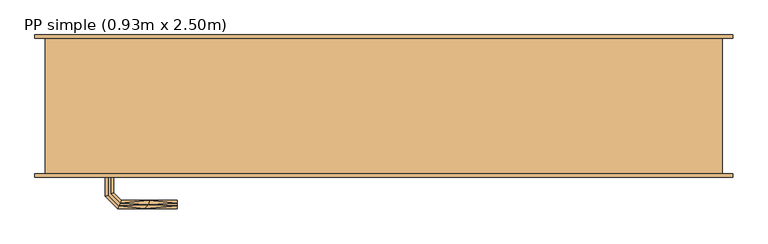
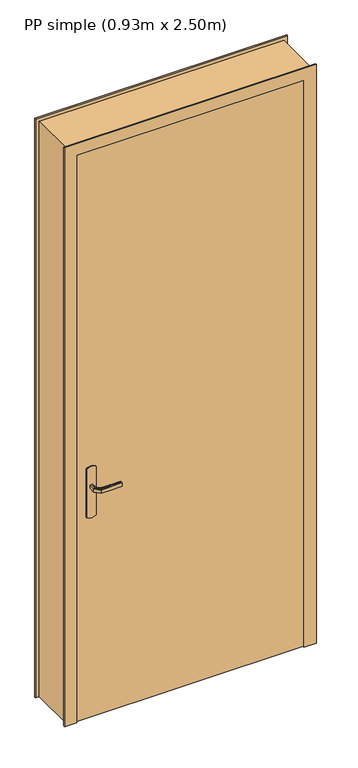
"""IFC4 building model written with IfcOpenShell, lengths in millimetres: door geometry, PP simple (0.93m x 2.50m)."""

from ifc_helpers import new_model, si_unit, frame, origin, origin_with_axes, place, context, project, spatial, polyline, outline, extrude, faceted_brep, source, transform, mapped, element, save


def pp_simple_0_93m_x_2_50m_93090895(model_context):
    return source(origin(), model_context, "Body", "SolidModel", [
        extrude(outline(polyline([(35.0, 40.0), (965.0, 40.0), (965.0, 0.0), (35.0, 0.0), (35.0, 40.0)])), origin_with_axes(), (0.0, 0.0, 1.0), 2450.0),
        extrude(outline(polyline([(866.0039831, 105.3527618), (870.0, 115.0), (1080.0, 115.0), (1083.9960169, 105.3527618), (1085.3589838, 95.0), (1083.9960169, 84.6472382), (1080.0, 75.0), (870.0, 75.0), (866.0039831, 84.6472382), (864.6410162, 95.0), (866.0039831, 105.3527618)])), frame((0.0, -5.0, 0.0), z_axis=(0.0, 1.0, 0.0), x_axis=(0.0, 0.0, 1.0)), (0.0, 0.0, 1.0), 5.0),
        faceted_brep([(92.9747013, -5.0, 1007.7804408), (97.0252987, -5.0, 1007.7804408), (101.0, -5.0, 1007.0), (101.0, -5.0, 993.0), (97.0252987, -5.0, 992.2195592), (92.9747013, -5.0, 992.2195592), (89.0, -5.0, 993.0), (89.0, -5.0, 1007.0), (89.0, -32.6509507, 1007.0), (92.9747013, -31.0045755, 1007.7804408), (109.0235852, -47.0534593, 1007.7804408), (110.7013975, -43.002862, 1007.7804408), (97.0252987, -29.3267632, 1007.7804408), (101.0, -27.680388, 1007.0), (101.0, -27.680388, 993.0), (97.0252987, -29.3267632, 992.2195592), (110.7013975, -43.002862, 992.2195592), (109.0235852, -47.0534593, 992.2195592), (92.9747013, -31.0045755, 992.2195592), (89.0, -32.6509507, 993.0), (107.37721, -51.0281607, 1007.0), (112.3477727, -39.0281607, 1007.0), (112.3477727, -39.0281607, 993.0), (107.37721, -51.0281607, 993.0), (195.0186406, -51.0281607, 993.0), (195.0186406, -47.0534593, 992.2195592), (195.0186406, -43.002862, 992.2195592), (195.0186406, -39.0281607, 993.0), (195.0186406, -39.0281607, 1007.0), (195.0186406, -43.002862, 1007.7804408), (195.0186406, -47.0534593, 1007.7804408), (195.0186406, -51.0281607, 1007.0), (147.3076972, -51.0281607, 1007.0), (152.8600191, -45.0281607, 1007.8786868), (153.6832067, -39.0281607, 1007.0), (153.6832067, -39.0281607, 993.0), (152.8600189, -45.0281608, 992.1213132), (147.3077002, -51.0281607, 993.0)], [[[0, 1, 2, 3, 4, 5, 6, 7]], [[8, 9, 0, 7]], [[9, 10, 11, 12, 1, 0]], [[12, 13, 2, 1]], [[3, 2, 13, 14]], [[14, 15, 4, 3]], [[15, 16, 17, 18, 5, 4]], [[18, 19, 6, 5]], [[7, 6, 19, 8]], [[20, 10, 9, 8]], [[11, 21, 13, 12]], [[14, 13, 21, 22]], [[22, 16, 15, 14]], [[17, 23, 19, 18]], [[8, 19, 23, 20]], [[24, 25, 26, 27, 28, 29, 30, 31]], [[32, 30, 33]], [[31, 30, 32]], [[10, 20, 32]], [[33, 34, 11]], [[21, 11, 34]], [[34, 29, 28]], [[30, 29, 33]], [[29, 34, 33]], [[10, 32, 33]], [[10, 33, 11]], [[22, 21, 34, 28, 27, 35]], [[35, 26, 36]], [[37, 36, 25]], [[22, 35, 16]], [[35, 27, 26]], [[24, 37, 25]], [[23, 17, 37]], [[37, 17, 36]], [[17, 16, 36]], [[16, 35, 36]], [[25, 36, 26]], [[20, 23, 37, 24, 31, 32]]]),
        faceted_brep([(92.9747013, 45.0, 1007.7804408), (89.0, 45.0, 1007.0), (89.0, 45.0, 993.0), (92.9747013, 45.0, 992.2195592), (97.0252987, 45.0, 992.2195592), (101.0, 45.0, 993.0), (101.0, 45.0, 1007.0), (97.0252987, 45.0, 1007.7804408), (101.0, 67.4852045, 993.0), (101.0, 67.4852045, 1007.0), (97.0252987, 69.1315797, 1007.7804408), (110.8389062, 82.9451872, 1007.7804408), (109.1610938, 86.9957845, 1007.7804408), (92.9747013, 70.8093921, 1007.7804408), (89.0, 72.4557673, 1007.0), (89.0, 72.4557673, 993.0), (92.9747013, 70.8093921, 992.2195592), (109.1610938, 86.9957845, 992.2195592), (110.8389062, 82.9451872, 992.2195592), (97.0252987, 69.1315797, 992.2195592), (112.4852814, 78.9704859, 993.0), (112.4852814, 78.9704859, 1007.0), (107.5147186, 90.9704859, 1007.0), (107.5147186, 90.9704859, 993.0), (195.0457837, 78.9704859, 993.0), (195.0457837, 82.9451872, 992.2195592), (195.0457837, 86.9957845, 992.2195592), (195.0457837, 90.9704859, 993.0), (195.0457837, 90.9704859, 1007.0), (195.0457837, 86.9957845, 1007.7804408), (195.0457837, 82.9451872, 1007.7804408), (195.0457837, 78.9704859, 1007.0), (153.7655206, 78.9704859, 993.0), (153.7655325, 78.9704859, 1007.0), (152.9423449, 84.9704859, 1007.8786868), (147.4452058, 90.9704859, 1007.0), (147.4452043, 90.9704859, 993.0), (152.9423451, 84.9704858, 992.1213132)], [[[0, 1, 2, 3, 4, 5, 6, 7]], [[6, 5, 8, 9]], [[9, 10, 7, 6]], [[10, 11, 12, 13, 0, 7]], [[13, 14, 1, 0]], [[2, 1, 14, 15]], [[15, 16, 3, 2]], [[16, 17, 18, 19, 4, 3]], [[19, 8, 5, 4]], [[9, 8, 20, 21]], [[21, 11, 10, 9]], [[12, 22, 14, 13]], [[15, 14, 22, 23]], [[23, 17, 16, 15]], [[18, 20, 8, 19]], [[24, 25, 26, 27, 28, 29, 30, 31]], [[21, 20, 32, 24, 31, 33]], [[33, 30, 34]], [[35, 34, 29]], [[21, 33, 11]], [[33, 31, 30]], [[28, 35, 29]], [[22, 12, 35]], [[35, 12, 34]], [[12, 11, 34]], [[11, 33, 34]], [[29, 34, 30]], [[22, 35, 28, 27, 36, 23]], [[36, 26, 37]], [[27, 26, 36]], [[17, 23, 36]], [[37, 32, 18]], [[20, 18, 32]], [[32, 25, 24]], [[26, 25, 37]], [[25, 32, 37]], [[17, 36, 37]], [[17, 37, 18]]]),
        faceted_brep([(0.0, 200.0, 0.0), (-15.0, 200.0, 0.0), (-15.0, 205.0, 0.0), (50.0, 205.0, 0.0), (50.0, 40.0, 0.0), (35.0, 40.0, 0.0), (35.0, -5.0, 0.0), (-15.0, -5.0, 0.0), (-15.0, 0.0, 0.0), (0.0, 0.0, 0.0), (0.0, 0.0, 2485.0), (0.0, 200.0, 2485.0), (1000.0, 200.0, 2485.0), (1000.0, 200.0, 0.0), (1015.0, 200.0, 0.0), (1015.0, 200.0, 2500.0), (-15.0, 200.0, 2500.0), (50.0, 205.0, 2435.0), (50.0, 40.0, 2435.0), (950.0, 40.0, 2435.0), (950.0, 40.0, 0.0), (965.0, 40.0, 0.0), (965.0, 40.0, 2450.0), (35.0, 40.0, 2450.0), (1000.0, 0.0, 2485.0), (1000.0, 0.0, 0.0), (1015.0, 0.0, 0.0), (1015.0, -5.0, 0.0), (965.0, -5.0, 0.0), (950.0, 205.0, 0.0), (1015.0, 205.0, 0.0), (950.0, 205.0, 2435.0), (35.0, -5.0, 2450.0), (965.0, -5.0, 2450.0), (1015.0, -5.0, 2500.0), (-15.0, -5.0, 2500.0), (-15.0, 0.0, 2500.0), (1015.0, 0.0, 2500.0), (-15.0, 205.0, 2500.0), (1015.0, 205.0, 2500.0)], [[[0, 1, 2, 3, 4, 5, 6, 7, 8, 9]], [[0, 9, 10, 11]], [[1, 0, 11, 12, 13, 14, 15, 16]], [[3, 17, 18, 4]], [[5, 4, 18, 19, 20, 21, 22, 23]], [[12, 24, 25, 13]], [[13, 25, 26, 27, 28, 21, 20, 29, 30, 14]], [[19, 31, 29, 20]], [[11, 10, 24, 12]], [[18, 17, 31, 19]], [[5, 23, 32, 6]], [[7, 6, 32, 33, 28, 27, 34, 35]], [[8, 7, 35, 36]], [[9, 8, 36, 37, 26, 25, 24, 10]], [[2, 1, 16, 38]], [[3, 2, 38, 39, 30, 29, 31, 17]], [[33, 22, 21, 28]], [[37, 34, 27, 26]], [[39, 15, 14, 30]], [[32, 23, 22, 33]], [[36, 35, 34, 37]], [[38, 16, 15, 39]]]),
        extrude(outline(polyline([(866.0039831, 105.3527618), (870.0, 115.0), (1080.0, 115.0), (1083.9960169, 105.3527618), (1085.3589838, 95.0), (1083.9960169, 84.6472382), (1080.0, 75.0), (870.0, 75.0), (866.0039831, 84.6472382), (864.6410162, 95.0), (866.0039831, 105.3527618)])), frame((0.0, 40.0, 0.0), z_axis=(0.0, 1.0, 0.0), x_axis=(0.0, 0.0, 1.0)), (0.0, 0.0, 1.0), 5.0),
    ])


if __name__ == "__main__":
    model = new_model("IFC4")
    model_context = context("Model", 3, world=origin())
    ifc_project = project(units=[si_unit("LENGTHUNIT", "METRE", prefix="MILLI")], contexts=[model_context])
    site = spatial("IfcSite", under=ifc_project)
    building = spatial("IfcBuilding", under=site)
    placement = place(None, origin())
    pp_simple_0_93m_x_2_50m_shape = pp_simple_0_93m_x_2_50m_93090895(model_context)
    element("IfcDoor", 1, ObjectType="PP simple (0.93m x 2.50m)", at=placement, inside=building, context=model_context, shape_type="MappedRepresentation", body=[
        mapped(pp_simple_0_93m_x_2_50m_shape, transform((0.0, 0.0, 0.0), x_axis=(1.0, 0.0, 0.0), y_axis=(0.0, 1.0, 0.0), z_axis=(0.0, 0.0, 1.0))),
    ])
    save(model, "model.ifc")
